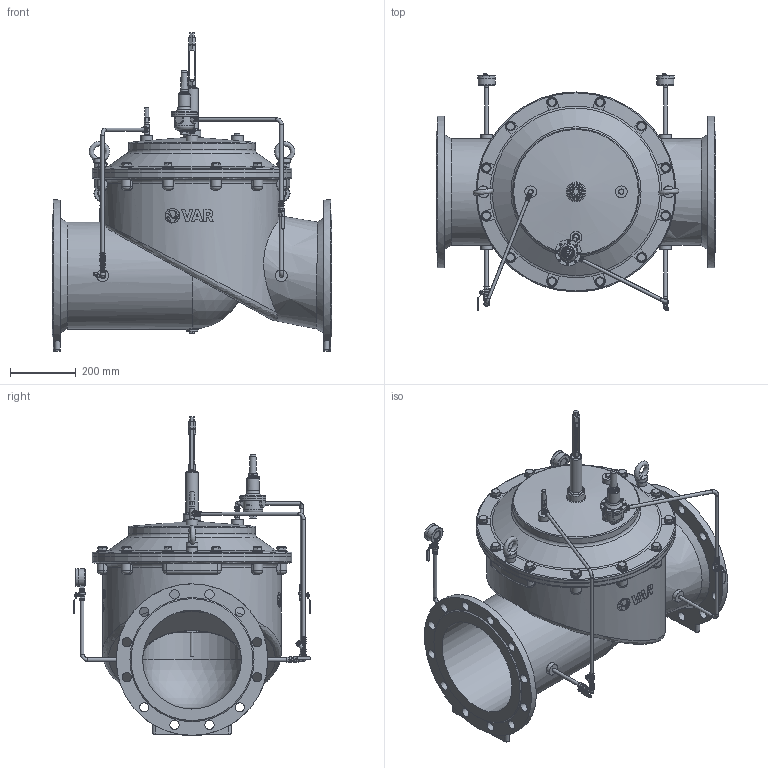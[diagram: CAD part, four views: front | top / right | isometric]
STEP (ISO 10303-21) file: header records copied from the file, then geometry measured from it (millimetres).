
FILE_DESCRIPTION(('STEP AP242'), '1');
FILE_NAME('PICO C200', '', ('UNSPECIFIED'), ('UNSPECIFIED'), 'C3D Converter', 'C3D Toolkit', '');
FILE_SCHEMA(('AP242_MANAGED_MODEL_BASED_3D_ENGINEERING_MIM_LF { 1 0 10303 442 1 1 4 }'));
Length unit declared in the file: millimetre
Products named in the file (26): М; ВР.752218.002
Assembly tree (69 placements, depth 3):
  (unnamed)
    (unnamed)
    (unnamed)
    (unnamed)
    (unnamed)
    (unnamed)
    (unnamed)
    (unnamed)
    М  x2
    (unnamed)
    (unnamed)  x4
    ВР.752218.002  x2
    (unnamed)  x6
    (unnamed)
    (unnamed)  x4
    (unnamed)
    (unnamed)
      (unnamed)
      (unnamed)
      (unnamed)  x8
      (unnamed)
    (unnamed)
    (unnamed)  x2
    (unnamed)  x2
    (unnamed)  x12
    (unnamed)  x12
Bounding box: 850 x 720 x 968 mm (x, y, z)
Volume: 36835256.4 mm3; surface area: 5736309.7 mm2
Topology: 75 solids, 77 shells, 3046 faces, 7639 edges, 4999 vertices
Faces by surface type: plane 1666, cylinder 669, cone 322, extrusion 173, torus 121, bspline 84, sphere 11
Full cylindrical faces by diameter (mm): 0.518 x2, 1.2 x1, 2.5 x2, 3 x8, 4 x25, 4.2 x4, 4.5 x4, 5 x2, 6 x8, 7 x8, 8 x5, 8.7 x1, 9 x16, 9.3 x6, 9.5 x2, 10 x4, 10.2 x4, 10.8 x2, 11 x18, 11.16 x4, 11.179 x6, 11.22 x4, 11.4 x2, 11.577 x2, 12 x10, 12.5 x3, 12.573 x15, 13.157 x2, 13.8 x4, 14.4 x5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
Entity records: 121841 total; most frequent: CARTESIAN_POINT 69270, ORIENTED_EDGE 8410, DIRECTION 7618, EDGE_CURVE 4205, VERTEX_POINT 3000, AXIS2_PLACEMENT_3D 2812, EDGE_LOOP 2583, FACE_BOUND 2031
